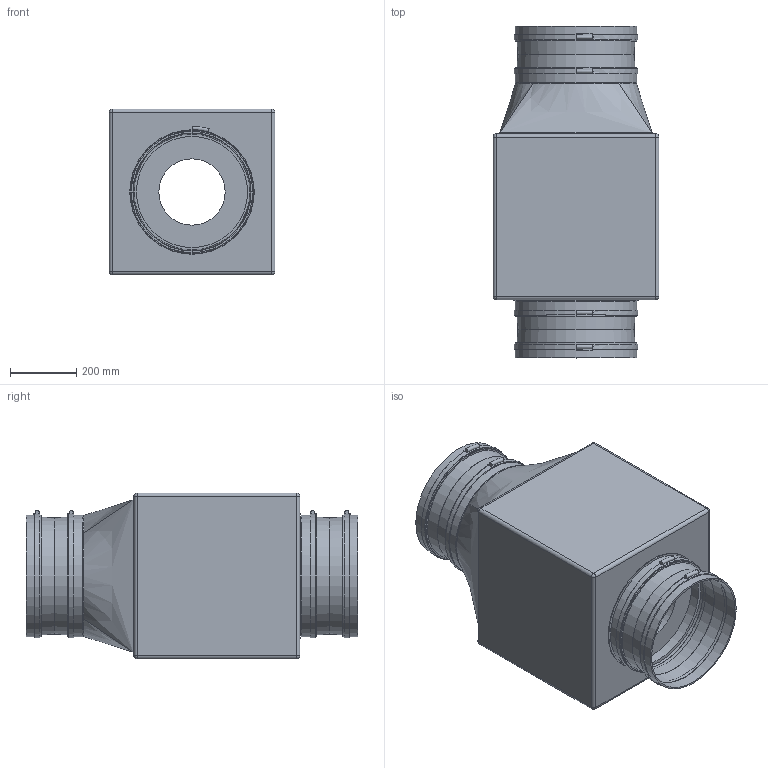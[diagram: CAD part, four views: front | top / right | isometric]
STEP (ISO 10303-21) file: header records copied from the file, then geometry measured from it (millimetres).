
FILE_DESCRIPTION(/* description */ (''),/* implementation_level */ '2;1');
FILE_NAME(/* name */ 'Z:\Output\GBW_EC_355_Axial-05809-003.stp',/* time_stamp */ '2023-02-02T08:50:03+01:00',/* author */ ('jayeshpanchal'),/* organization */ (''),/* preprocessor_version */ 'ST-DEVELOPER v18',/* originating_system */ 'Autodesk Inventor 2020',/* authorisation */ '');
FILE_SCHEMA (('AUTOMOTIVE_DESIGN { 1 0 10303 214 3 1 1 }'));
Length unit declared in the file: millimetre
Products named in the file (1): GB-1
Bounding box: 500 x 1000 x 500 mm (x, y, z)
Volume: 112243146.6 mm3; surface area: 3230129.6 mm2
Topology: 7 solids, 7 shells, 121 faces, 288 edges, 194 vertices
Faces by surface type: cylinder 46, plane 43, bspline 12, sphere 8, cone 8, torus 4
Full cylindrical faces by diameter (mm): 200 x1, 335 x1, 355 x2, 356 x8, 365 x1, 366 x8, 372 x4, 375 x1
Entity records: 4255 total; most frequent: CARTESIAN_POINT 1283, DIRECTION 652, ORIENTED_EDGE 576, EDGE_CURVE 288, AXIS2_PLACEMENT_3D 279, VERTEX_POINT 194, CIRCLE 169, EDGE_LOOP 148
